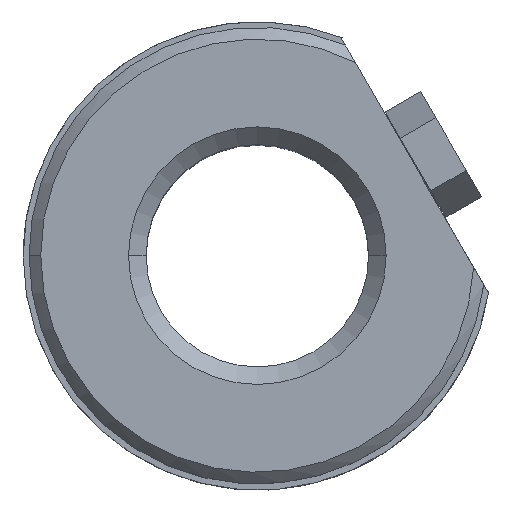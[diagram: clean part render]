
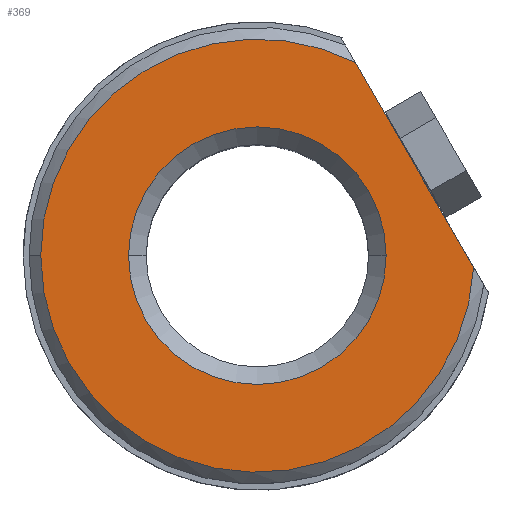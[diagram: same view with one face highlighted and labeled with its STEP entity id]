
A CAD part, top view. The second image highlights one B-rep face of the part: STEP entity #369.
In plain terms, the highlighted planar face has unit normal (0, 0, 1).
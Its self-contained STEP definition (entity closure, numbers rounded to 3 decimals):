
#250=CARTESIAN_POINT('Axis2P3D Location',(0.,0.,20.)) ;
#254=CARTESIAN_POINT('Vertex',(11.,0.,20.)) ;
#256=CARTESIAN_POINT('Vertex',(-11.,0.,20.)) ;
#329=CARTESIAN_POINT('Axis2P3D Location',(11.,0.,20.)) ;
#334=CARTESIAN_POINT('Line Origine',(13.423,7.75,20.)) ;
#338=CARTESIAN_POINT('Vertex',(18.473,-0.996,20.)) ;
#340=CARTESIAN_POINT('Vertex',(8.374,16.496,20.)) ;
#343=CARTESIAN_POINT('Axis2P3D Location',(0.,0.,20.)) ;
#347=CARTESIAN_POINT('Vertex',(-18.5,0.,20.)) ;
#350=CARTESIAN_POINT('Axis2P3D Location',(0.,0.,20.)) ;
#360=CARTESIAN_POINT('Axis2P3D Location',(0.,0.,20.)) ;
#251=DIRECTION('Axis2P3D Direction',(0.,-0.,1.)) ;
#330=DIRECTION('Axis2P3D Direction',(0.,-0.,1.)) ;
#331=DIRECTION('Axis2P3D XDirection',(1.,0.,0.)) ;
#335=DIRECTION('Vector Direction',(-0.5,0.866,0.)) ;
#344=DIRECTION('Axis2P3D Direction',(0.,-0.,1.)) ;
#351=DIRECTION('Axis2P3D Direction',(0.,-0.,1.)) ;
#361=DIRECTION('Axis2P3D Direction',(0.,-0.,1.)) ;
#252=AXIS2_PLACEMENT_3D('Circle Axis2P3D',#250,#251,$) ;
#332=AXIS2_PLACEMENT_3D('Plane Axis2P3D',#329,#330,#331) ;
#345=AXIS2_PLACEMENT_3D('Circle Axis2P3D',#343,#344,$) ;
#352=AXIS2_PLACEMENT_3D('Circle Axis2P3D',#350,#351,$) ;
#362=AXIS2_PLACEMENT_3D('Circle Axis2P3D',#360,#361,$) ;
#356=ORIENTED_EDGE('',*,*,#342,.T.) ;
#357=ORIENTED_EDGE('',*,*,#349,.T.) ;
#358=ORIENTED_EDGE('',*,*,#354,.T.) ;
#366=ORIENTED_EDGE('',*,*,#364,.F.) ;
#367=ORIENTED_EDGE('',*,*,#258,.F.) ;
#368=FACE_BOUND('',#365,.T.) ;
#336=VECTOR('Line Direction',#335,1.) ;
#369=ADVANCED_FACE('741-19',(#359,#368),#333,.T.) ;
#253=CIRCLE('generated circle',#252,11.) ;
#346=CIRCLE('generated circle',#345,18.5) ;
#353=CIRCLE('generated circle',#352,18.5) ;
#363=CIRCLE('generated circle',#362,11.) ;
#258=EDGE_CURVE('',#255,#257,#253,.T.) ;
#342=EDGE_CURVE('',#339,#341,#337,.T.) ;
#349=EDGE_CURVE('',#341,#348,#346,.T.) ;
#354=EDGE_CURVE('',#348,#339,#353,.T.) ;
#364=EDGE_CURVE('',#257,#255,#363,.T.) ;
#355=EDGE_LOOP('',(#356,#357,#358)) ;
#365=EDGE_LOOP('',(#366,#367)) ;
#359=FACE_OUTER_BOUND('',#355,.T.) ;
#337=LINE('Line',#334,#336) ;
#333=PLANE('Plane',#332) ;
#255=VERTEX_POINT('',#254) ;
#257=VERTEX_POINT('',#256) ;
#339=VERTEX_POINT('',#338) ;
#341=VERTEX_POINT('',#340) ;
#348=VERTEX_POINT('',#347) ;
